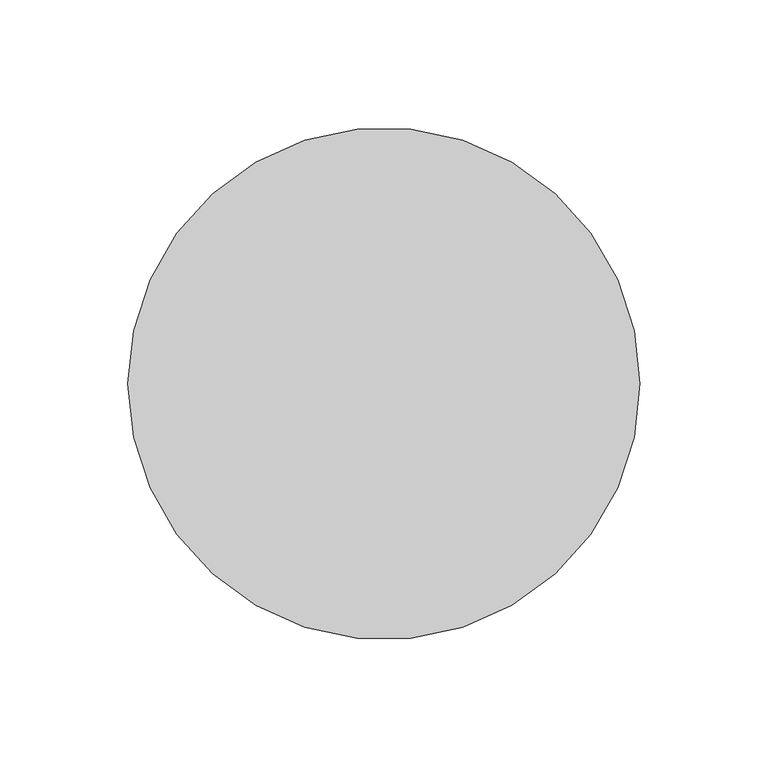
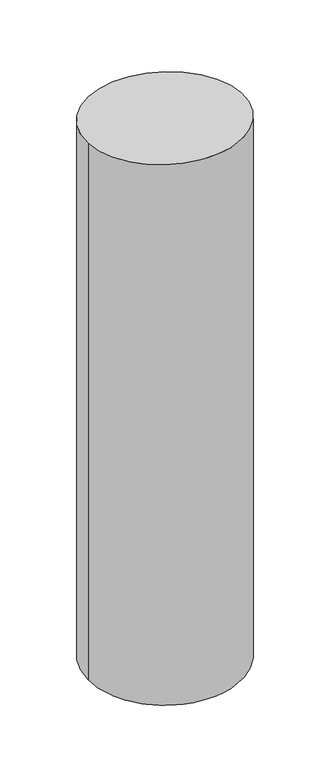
"""IFC4 building model written with IfcOpenShell, lengths in millimetres: member geometry, 矩形竖梃 : 圆瓦."""

from ifc_helpers import new_model, si_unit, frame, origin, origin_with_axes, place, context, project, spatial, circle_curve, ellipse_curve, source, transform, mapped, element, save
from ifc_brep_helpers import plane_surface, cylinder_surface, advanced_brep


def member_69260188(model_context):
    return source(origin(), model_context, "Body", "AdvancedBrep", [
        advanced_brep(
        [(100.0, 0.0, -741.355289), (-100.0, 0.0, -741.355289), (-100.0, 0.0, 0.0), (100.0, 0.0, 0.0)],
        [
            (0, 1, circle_curve(frame((0.0, 0.0, -741.355289), z_axis=(0.0, 0.0, -1.0), x_axis=(1.0, 0.0, 0.0)), 100.0)),
            (1, 0, circle_curve(frame((0.0, 0.0, -741.355289), z_axis=(0.0, 0.0, -1.0), x_axis=(1.0, 0.0, 0.0)), 100.0)),
            (2, 3, ellipse_curve(frame((0.0, 0.0, 0.0), z_axis=(0.0, -0.06558492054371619, -0.9978469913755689), x_axis=(0.0, -0.9978469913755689, 0.06558492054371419)), 100.2157654, 100.0)),
            (3, 0),
            (1, 2),
            (3, 2, ellipse_curve(frame((0.0, 0.0, 0.0), z_axis=(0.0, -0.06558492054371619, -0.9978469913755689), x_axis=(0.0, -0.9978469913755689, 0.06558492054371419)), 100.2157654, 100.0)),
        ],
        [
            plane_surface(frame((0.0, -100.0, -741.355289), z_axis=(0.0, 0.0, -1.0), x_axis=(-1.0, 0.0, 0.0))),
            cylinder_surface(origin_with_axes(), 100.0),
            plane_surface(frame((-304.8, 0.0, 0.0), z_axis=(0.0, 0.06558492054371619, 0.9978469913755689), x_axis=(0.0, 0.9978469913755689, -0.06558492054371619))),
        ],
        [
            (0, [[1, 2]]),
            (1, [[3, 4, -2, 5]]),
            (1, [[6, -5, -1, -4]]),
            (2, [[-3, -6]]),
        ],
    ),
    ])


if __name__ == "__main__":
    model = new_model("IFC4")
    model_context = context("Model", 3, world=origin())
    ifc_project = project(units=[si_unit("LENGTHUNIT", "METRE", prefix="MILLI")], contexts=[model_context])
    site = spatial("IfcSite", under=ifc_project)
    building = spatial("IfcBuilding", under=site)
    placement = place(None, origin())
    member_shape = member_69260188(model_context)
    element("IfcMember", 1, ObjectType="矩形竖梃 : 圆瓦", at=placement, inside=building, context=model_context, shape_type="MappedRepresentation", body=[
        mapped(member_shape, transform((0.0, 0.0, 0.0), x_axis=(1.0, 0.0, 0.0), y_axis=(0.0, 1.0, 0.0), z_axis=(0.0, 0.0, 1.0))),
    ])
    save(model, "model.ifc")
